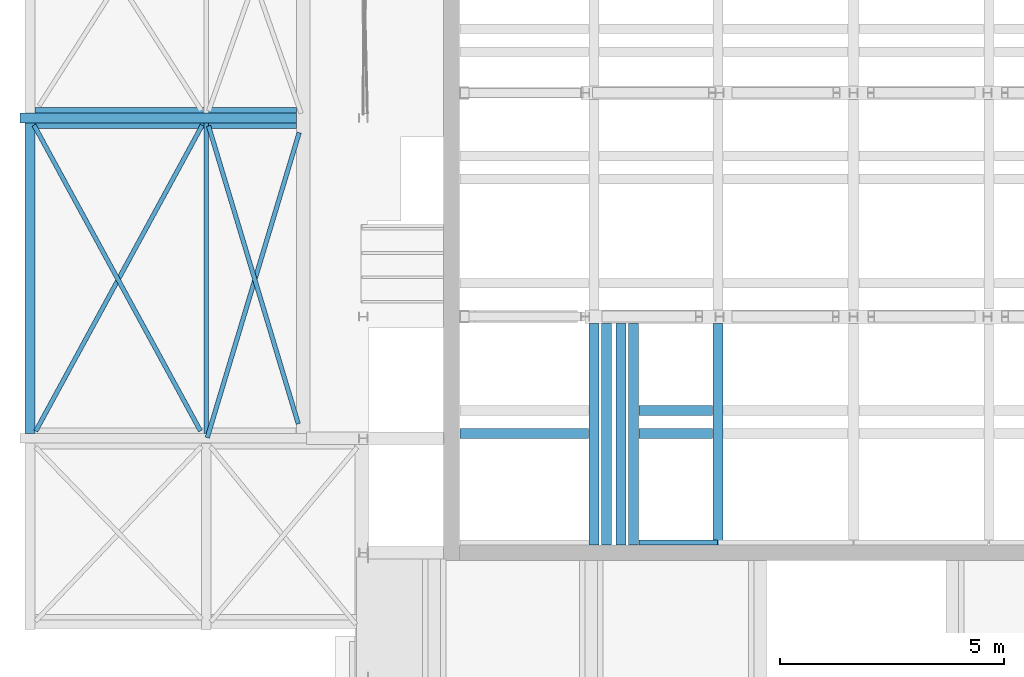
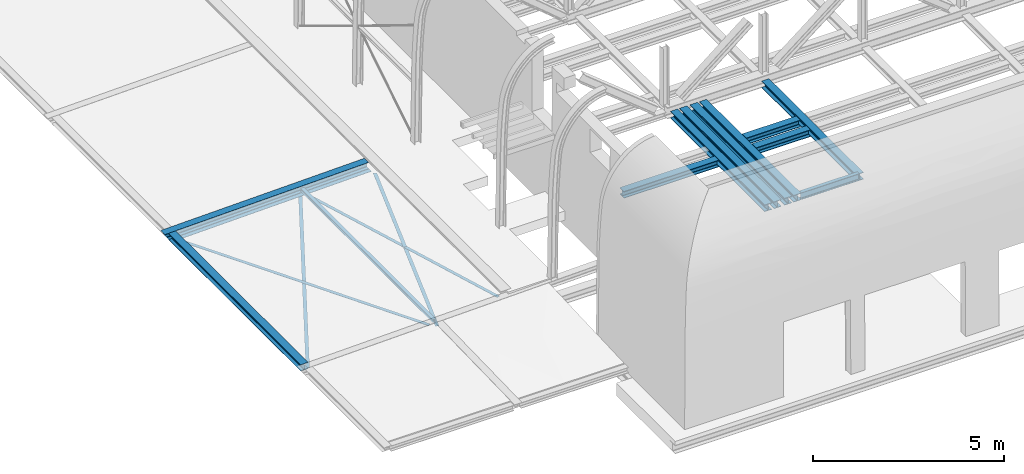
# One storey, part 8 of 29: 16 beams.
"""IFC2X3 building model written with IfcOpenShell, lengths in millimetres."""

from ifc_helpers import new_model, entity, si_unit, converted_unit, derived_unit, direction, frame, frame_2d, origin, place, context, subcontext, project, spatial, polyline, circle_curve, parameter, trimmed, segment, composite_curve, rectangle, i_section, outline, extrude, clip, halfspace, source, transform, mapped, material, material_list, type_object, type_shapes, element, save


model = new_model("IFC2X3")

# Units and contexts
model_context = context("Model", 3, precision=0.01, world=origin(), true_north=direction((6.12303176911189e-17, 1.0)))
body_context = subcontext(model_context, "Body", "Model", "MODEL_VIEW")
ifc_project = project(units=[si_unit("LENGTHUNIT", "METRE", prefix="MILLI"), si_unit("AREAUNIT", "SQUARE_METRE", prefix="MILLI"), si_unit("VOLUMEUNIT", "CUBIC_METRE"), converted_unit("PLANEANGLEUNIT", "DEGREE", entity("IfcRatioMeasure", 0.0174532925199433), si_unit("PLANEANGLEUNIT", "RADIAN"), dimensions=[0, 0, 0, 0, 0, 0, 0]), si_unit("MASSUNIT", "GRAM", prefix="KILO"), derived_unit("MASSDENSITYUNIT", [(si_unit("MASSUNIT", "GRAM", prefix="KILO"), 1), (si_unit("LENGTHUNIT", "METRE"), -3)]), derived_unit("MOMENTOFINERTIAUNIT", [(si_unit("LENGTHUNIT", "METRE"), 4)]), si_unit("TIMEUNIT", "SECOND"), si_unit("FREQUENCYUNIT", "HERTZ"), si_unit("THERMODYNAMICTEMPERATUREUNIT", "DEGREE_CELSIUS"), derived_unit("THERMALTRANSMITTANCEUNIT", [(si_unit("MASSUNIT", "GRAM", prefix="KILO"), 1), (si_unit("THERMODYNAMICTEMPERATUREUNIT", "KELVIN"), -1), (si_unit("TIMEUNIT", "SECOND"), -3)]), derived_unit("VOLUMETRICFLOWRATEUNIT", [(si_unit("LENGTHUNIT", "METRE"), 3), (si_unit("TIMEUNIT", "SECOND"), -1)]), si_unit("ELECTRICCURRENTUNIT", "AMPERE"), si_unit("ELECTRICVOLTAGEUNIT", "VOLT"), si_unit("POWERUNIT", "WATT"), si_unit("FORCEUNIT", "NEWTON", prefix="KILO"), si_unit("ILLUMINANCEUNIT", "LUX"), si_unit("LUMINOUSFLUXUNIT", "LUMEN"), si_unit("LUMINOUSINTENSITYUNIT", "CANDELA"), derived_unit("USERDEFINED", [(si_unit("MASSUNIT", "GRAM", prefix="KILO"), -1), (si_unit("LENGTHUNIT", "METRE"), -2), (si_unit("TIMEUNIT", "SECOND"), 3), (si_unit("LUMINOUSFLUXUNIT", "LUMEN"), 1)]), derived_unit("LINEARVELOCITYUNIT", [(si_unit("LENGTHUNIT", "METRE"), 1), (si_unit("TIMEUNIT", "SECOND"), -1)]), si_unit("PRESSUREUNIT", "PASCAL"), derived_unit("USERDEFINED", [(si_unit("LENGTHUNIT", "METRE"), -2), (si_unit("MASSUNIT", "GRAM", prefix="KILO"), 1), (si_unit("TIMEUNIT", "SECOND"), -2)]), derived_unit("LINEARFORCEUNIT", [(si_unit("MASSUNIT", "GRAM", prefix="KILO"), 1), (si_unit("LENGTHUNIT", "METRE"), 1), (si_unit("TIMEUNIT", "SECOND"), -2), (si_unit("LENGTHUNIT", "METRE"), -1)]), derived_unit("PLANARFORCEUNIT", [(si_unit("MASSUNIT", "GRAM", prefix="KILO"), 1), (si_unit("LENGTHUNIT", "METRE"), 1), (si_unit("TIMEUNIT", "SECOND"), -2), (si_unit("LENGTHUNIT", "METRE"), -2)])], contexts=[model_context])

# Site, building, storey
site_placement = place(None, origin())
site = spatial("IfcSite", under=ifc_project, at=site_placement, Name="Theater aan de Parade", CompositionType="ELEMENT")
building_placement = place(site_placement, origin())
building = spatial("IfcBuilding", under=site, at=building_placement, Name="Theater aan de Parade", CompositionType="ELEMENT")
storey_placement = place(building_placement, frame((0.0, 0.0, 20300.0)))
storey = spatial("IfcBuildingStorey", under=building, at=storey_placement, Name="05 vijfde verdieping", CompositionType="ELEMENT", Elevation=20300.0)

# Beams
ifc_material_1 = material(Name="00_PBT_MAT_staal_S355")
beam_type_1 = type_object("IfcBeamType", Name="28_PBT_SF_staal_H-profiel:S355_HE220B", PredefinedType="NOTDEFINED")
beam_1_placement = place(storey_placement, frame((73483.3589914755, 19810.0002435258, 0.0), z_axis=(0.0, 0.0, 1.0), x_axis=(0.0, 1.0, 0.0)))
element("IfcBeam", 1, at=beam_1_placement, inside=storey, type_object=beam_type_1, material=ifc_material_1, Name="28_PBT_SF_staal_H-profiel:S355_HE220B", ObjectType="28_PBT_SF_staal_H-profiel:S355_HE220B", context=body_context, shape_type="SweptSolid", body=[
    extrude(outline(composite_curve([segment(polyline([(94.0, -110.0), (110.0, -110.0)]), True, "CONTINUOUS"), segment(polyline([(110.0, -110.0), (110.0, 110.0)]), True, "CONTINUOUS"), segment(polyline([(110.0, 110.0), (94.0, 110.0)]), True, "CONTINUOUS"), segment(polyline([(94.0, 110.0), (94.0, 22.7499999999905)]), True, "CONTINUOUS"), segment(trimmed(circle_curve(frame_2d((76.0, 22.7499999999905), x_axis=(1.0, 0.0)), 17.9999999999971), [parameter(269.999999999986)], [parameter(0.0)], True, "PARAMETER"), False, "CONTINUOUS"), segment(polyline([(76.0, 4.74999999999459), (-76.0, 4.74999999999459)]), True, "CONTINUOUS"), segment(trimmed(circle_curve(frame_2d((-76.0, 22.7499999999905), x_axis=(0.0, -1.0)), 17.9999999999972), [parameter(269.999999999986)], [parameter(0.0)], True, "PARAMETER"), False, "CONTINUOUS"), segment(polyline([(-94.0, 22.7499999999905), (-94.0, 110.0)]), True, "CONTINUOUS"), segment(polyline([(-94.0, 110.0), (-110.0, 110.0)]), True, "CONTINUOUS"), segment(polyline([(-110.0, 110.0), (-110.0, -110.0)]), True, "CONTINUOUS"), segment(polyline([(-110.0, -110.0), (-94.0, -110.0)]), True, "CONTINUOUS"), segment(polyline([(-94.0, -110.0), (-94.0, -22.7500000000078)]), True, "CONTINUOUS"), segment(trimmed(circle_curve(frame_2d((-76.0, -22.7500000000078), x_axis=(-1.0, 0.0)), 17.9999999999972), [parameter(269.999999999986)], [parameter(0.0)], True, "PARAMETER"), False, "CONTINUOUS"), segment(polyline([(-76.0, -4.75000000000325), (76.0, -4.75000000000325)]), True, "CONTINUOUS"), segment(trimmed(circle_curve(frame_2d((76.0, -22.7500000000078), x_axis=(0.0, 1.0)), 17.9999999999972), [parameter(269.999999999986)], [parameter(0.0)], True, "PARAMETER"), False, "CONTINUOUS"), segment(polyline([(94.0, -22.7500000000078), (94.0, -110.0)]), True, "CONTINUOUS")], self_intersect=False)), frame((0.0, 0.0, 2360.0), z_axis=(1.0, 0.0, 0.0), x_axis=(0.0, 0.0, -1.0)), (0.0, 0.0, 1.0), 4949.99975647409),
])
beam_2_placement = place(storey_placement, frame((70715.0, 19810.0002435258, 0.0), z_axis=(0.0, 0.0, 1.0), x_axis=(0.0, 1.0, 0.0)))
element("IfcBeam", 2, at=beam_2_placement, inside=storey, type_object=beam_type_1, material=ifc_material_1, Name="28_PBT_SF_staal_H-profiel:S355_HE220B", ObjectType="28_PBT_SF_staal_H-profiel:S355_HE220B", context=body_context, shape_type="SweptSolid", body=[
    extrude(outline(composite_curve([segment(polyline([(94.0, -110.0), (110.0, -110.0)]), True, "CONTINUOUS"), segment(polyline([(110.0, -110.0), (110.0, 110.0)]), True, "CONTINUOUS"), segment(polyline([(110.0, 110.0), (94.0, 110.0)]), True, "CONTINUOUS"), segment(polyline([(94.0, 110.0), (94.0, 22.7499999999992)]), True, "CONTINUOUS"), segment(trimmed(circle_curve(frame_2d((76.0, 22.7499999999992), x_axis=(1.0, 0.0)), 17.9999999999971), [parameter(269.999999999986)], [parameter(0.0)], True, "PARAMETER"), False, "CONTINUOUS"), segment(polyline([(76.0, 4.75000000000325), (-76.0, 4.75000000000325)]), True, "CONTINUOUS"), segment(trimmed(circle_curve(frame_2d((-76.0, 22.7499999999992), x_axis=(0.0, -1.0)), 17.9999999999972), [parameter(269.999999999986)], [parameter(0.0)], True, "PARAMETER"), False, "CONTINUOUS"), segment(polyline([(-94.0, 22.7499999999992), (-94.0, 110.0)]), True, "CONTINUOUS"), segment(polyline([(-94.0, 110.0), (-110.0, 110.0)]), True, "CONTINUOUS"), segment(polyline([(-110.0, 110.0), (-110.0, -110.0)]), True, "CONTINUOUS"), segment(polyline([(-110.0, -110.0), (-94.0, -110.0)]), True, "CONTINUOUS"), segment(polyline([(-94.0, -110.0), (-94.0, -22.7499999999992)]), True, "CONTINUOUS"), segment(trimmed(circle_curve(frame_2d((-76.0, -22.7499999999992), x_axis=(-1.0, 0.0)), 17.9999999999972), [parameter(269.999999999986)], [parameter(0.0)], True, "PARAMETER"), False, "CONTINUOUS"), segment(polyline([(-76.0, -4.74999999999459), (76.0, -4.74999999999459)]), True, "CONTINUOUS"), segment(trimmed(circle_curve(frame_2d((76.0, -22.7499999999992), x_axis=(0.0, 1.0)), 17.9999999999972), [parameter(269.999999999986)], [parameter(0.0)], True, "PARAMETER"), False, "CONTINUOUS"), segment(polyline([(94.0, -22.7499999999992), (94.0, -110.0)]), True, "CONTINUOUS")], self_intersect=False)), frame((0.0, 0.0, 2360.0), z_axis=(1.0, 0.0, 0.0), x_axis=(0.0, 0.0, -1.0)), (0.0, 0.0, 1.0), 4949.99975647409),
])
beam_3_placement = place(storey_placement, frame((73483.3589914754, 22811.5, 0.0), z_axis=(0.0, 0.0, 1.0), x_axis=(-1.0, 0.0, 0.0)))
element("IfcBeam", 3, at=beam_3_placement, inside=storey, type_object=beam_type_1, material=ifc_material_1, Name="28_PBT_SF_staal_H-profiel:S355_HE220B", ObjectType="28_PBT_SF_staal_H-profiel:S355_HE220B", context=body_context, shape_type="SweptSolid", body=[
    extrude(outline(composite_curve([segment(polyline([(94.0, -110.0), (110.0, -110.0)]), True, "CONTINUOUS"), segment(polyline([(110.0, -110.0), (110.0, 110.0)]), True, "CONTINUOUS"), segment(polyline([(110.0, 110.0), (94.0, 110.0)]), True, "CONTINUOUS"), segment(polyline([(94.0, 110.0), (94.0, 22.7500000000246)]), True, "CONTINUOUS"), segment(trimmed(circle_curve(frame_2d((76.0, 22.7500000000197), x_axis=(1.0, 0.0)), 18.0000000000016), [parameter(270.0)], [parameter(0.0)], True, "PARAMETER"), False, "CONTINUOUS"), segment(polyline([(76.0, 4.75000000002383), (-76.0, 4.74999999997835)]), True, "CONTINUOUS"), segment(trimmed(circle_curve(frame_2d((-76.0, 22.7499999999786), x_axis=(0.0, -1.0)), 18.0000000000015), [parameter(270.0)], [parameter(0.0)], True, "PARAMETER"), False, "CONTINUOUS"), segment(polyline([(-94.0, 22.749999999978), (-94.0, 110.0)]), True, "CONTINUOUS"), segment(polyline([(-94.0, 110.0), (-110.0, 110.0)]), True, "CONTINUOUS"), segment(polyline([(-110.0, 110.0), (-110.0, -110.0)]), True, "CONTINUOUS"), segment(polyline([(-110.0, -110.0), (-94.0, -110.0)]), True, "CONTINUOUS"), segment(polyline([(-94.0, -110.0), (-94.0, -22.7500000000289)]), True, "CONTINUOUS"), segment(trimmed(circle_curve(frame_2d((-76.0, -22.7500000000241), x_axis=(-1.0, 0.0)), 17.9999999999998), [parameter(270.0)], [parameter(0.0)], True, "PARAMETER"), False, "CONTINUOUS"), segment(polyline([(-76.0, -4.75000000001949), (76.0, -4.74999999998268)]), True, "CONTINUOUS"), segment(trimmed(circle_curve(frame_2d((76.0, -22.7499999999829), x_axis=(0.0, 1.0)), 18.0000000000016), [parameter(270.0)], [parameter(0.0)], True, "PARAMETER"), False, "CONTINUOUS"), segment(polyline([(94.0, -22.7499999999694), (94.0, -110.0)]), True, "CONTINUOUS")], self_intersect=False)), frame((122.700000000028, 0.0, 2360.0), z_axis=(1.0, 0.0, 0.0), x_axis=(0.0, 0.0, -1.0)), (0.0, 0.0, 1.0), 1642.95899086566),
])
beam_4_placement = place(storey_placement, frame((70715.0, 22297.4998, 0.0), z_axis=(0.0, 0.0, 1.0), x_axis=(-1.0, 0.0, 0.0)))
element("IfcBeam", 4, at=beam_4_placement, inside=storey, type_object=beam_type_1, material=ifc_material_1, Name="28_PBT_SF_staal_H-profiel:S355_HE220B", ObjectType="28_PBT_SF_staal_H-profiel:S355_HE220B", context=body_context, shape_type="SweptSolid", body=[
    extrude(outline(composite_curve([segment(polyline([(94.0, -110.0), (110.0, -110.0)]), True, "CONTINUOUS"), segment(polyline([(110.0, -110.0), (110.0, 110.0)]), True, "CONTINUOUS"), segment(polyline([(110.0, 110.0), (94.0, 110.0)]), True, "CONTINUOUS"), segment(polyline([(94.0, 110.0), (94.0, 22.7500000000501)]), True, "CONTINUOUS"), segment(trimmed(circle_curve(frame_2d((76.0, 22.7500000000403), x_axis=(1.0, 0.0)), 18.0000000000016), [parameter(270.0)], [parameter(0.0)], True, "PARAMETER"), False, "CONTINUOUS"), segment(polyline([(76.0, 4.75000000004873), (-76.0, 4.74999999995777)]), True, "CONTINUOUS"), segment(trimmed(circle_curve(frame_2d((-76.0, 22.749999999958), x_axis=(0.0, -1.0)), 18.0000000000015), [parameter(270.0)], [parameter(0.0)], True, "PARAMETER"), False, "CONTINUOUS"), segment(polyline([(-94.0, 22.7499999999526), (-94.0, 110.0)]), True, "CONTINUOUS"), segment(polyline([(-94.0, 110.0), (-110.0, 110.0)]), True, "CONTINUOUS"), segment(polyline([(-110.0, 110.0), (-110.0, -110.0)]), True, "CONTINUOUS"), segment(polyline([(-110.0, -110.0), (-94.0, -110.0)]), True, "CONTINUOUS"), segment(polyline([(-94.0, -110.0), (-94.0, -22.7500000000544)]), True, "CONTINUOUS"), segment(trimmed(circle_curve(frame_2d((-76.0, -22.7500000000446), x_axis=(-1.0, 0.0)), 17.9999999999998), [parameter(270.0)], [parameter(0.0)], True, "PARAMETER"), False, "CONTINUOUS"), segment(polyline([(-76.0, -4.75000000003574), (76.0, -4.7499999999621)]), True, "CONTINUOUS"), segment(trimmed(circle_curve(frame_2d((76.0, -22.7499999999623), x_axis=(0.0, 1.0)), 18.0000000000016), [parameter(270.0)], [parameter(0.0)], True, "PARAMETER"), False, "CONTINUOUS"), segment(polyline([(94.0, -22.7499999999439), (94.0, -110.0)]), True, "CONTINUOUS")], self_intersect=False)), frame((122.699999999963, 0.0, 2360.0), z_axis=(1.0, 0.0, 0.0), x_axis=(0.0, 0.0, -1.0)), (0.0, 0.0, 1.0), 2873.34389903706),
])
beam_5_placement = place(storey_placement, frame((73483.3589914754, 22297.4998, 0.0), z_axis=(0.0, 0.0, 1.0), x_axis=(-1.0, 0.0, 0.0)))
element("IfcBeam", 5, at=beam_5_placement, inside=storey, type_object=beam_type_1, material=ifc_material_1, Name="28_PBT_SF_staal_H-profiel:S355_HE220B", ObjectType="28_PBT_SF_staal_H-profiel:S355_HE220B", context=body_context, shape_type="SweptSolid", body=[
    extrude(outline(composite_curve([segment(polyline([(94.0, -110.0), (110.0, -110.0)]), True, "CONTINUOUS"), segment(polyline([(110.0, -110.0), (110.0, 110.0)]), True, "CONTINUOUS"), segment(polyline([(110.0, 110.0), (94.0, 110.0)]), True, "CONTINUOUS"), segment(polyline([(94.0, 110.0), (94.0, 22.7500000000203)]), True, "CONTINUOUS"), segment(trimmed(circle_curve(frame_2d((76.0, 22.7500000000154), x_axis=(1.0, 0.0)), 18.0000000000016), [parameter(270.0)], [parameter(0.0)], True, "PARAMETER"), False, "CONTINUOUS"), segment(polyline([(76.0, 4.75000000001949), (-76.0, 4.74999999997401)]), True, "CONTINUOUS"), segment(trimmed(circle_curve(frame_2d((-76.0, 22.7499999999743), x_axis=(0.0, -1.0)), 18.0000000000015), [parameter(270.0)], [parameter(0.0)], True, "PARAMETER"), False, "CONTINUOUS"), segment(polyline([(-94.0, 22.7499999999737), (-94.0, 110.0)]), True, "CONTINUOUS"), segment(polyline([(-94.0, 110.0), (-110.0, 110.0)]), True, "CONTINUOUS"), segment(polyline([(-110.0, 110.0), (-110.0, -110.0)]), True, "CONTINUOUS"), segment(polyline([(-110.0, -110.0), (-94.0, -110.0)]), True, "CONTINUOUS"), segment(polyline([(-94.0, -110.0), (-94.0, -22.7500000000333)]), True, "CONTINUOUS"), segment(trimmed(circle_curve(frame_2d((-76.0, -22.7500000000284), x_axis=(-1.0, 0.0)), 17.9999999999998), [parameter(270.0)], [parameter(0.0)], True, "PARAMETER"), False, "CONTINUOUS"), segment(polyline([(-76.0, -4.75000000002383), (76.0, -4.74999999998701)]), True, "CONTINUOUS"), segment(trimmed(circle_curve(frame_2d((76.0, -22.7499999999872), x_axis=(0.0, 1.0)), 18.0000000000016), [parameter(270.0)], [parameter(0.0)], True, "PARAMETER"), False, "CONTINUOUS"), segment(polyline([(94.0, -22.7499999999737), (94.0, -110.0)]), True, "CONTINUOUS")], self_intersect=False)), frame((122.700000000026, 0.0, 2360.0), z_axis=(1.0, 0.0, 0.0), x_axis=(0.0, 0.0, -1.0)), (0.0, 0.0, 1.0), 1642.95899086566),
])
beam_6_placement = place(storey_placement, frame((70995.0, 19810.0002435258, 0.0), z_axis=(0.0, 0.0, 1.0), x_axis=(0.0, 1.0, 0.0)))
element("IfcBeam", 6, at=beam_6_placement, inside=storey, type_object=beam_type_1, material=ifc_material_1, Name="28_PBT_SF_staal_H-profiel:S355_HE220B", ObjectType="28_PBT_SF_staal_H-profiel:S355_HE220B", context=body_context, shape_type="SweptSolid", body=[
    extrude(outline(composite_curve([segment(polyline([(94.0, -110.0), (110.0, -110.0)]), True, "CONTINUOUS"), segment(polyline([(110.0, -110.0), (110.0, 110.0)]), True, "CONTINUOUS"), segment(polyline([(110.0, 110.0), (94.0, 110.0)]), True, "CONTINUOUS"), segment(polyline([(94.0, 110.0), (94.0, 22.7499999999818)]), True, "CONTINUOUS"), segment(trimmed(circle_curve(frame_2d((76.0, 22.7499999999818), x_axis=(1.0, 0.0)), 17.9999999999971), [parameter(269.999999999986)], [parameter(0.0)], True, "PARAMETER"), False, "CONTINUOUS"), segment(polyline([(76.0, 4.74999999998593), (-76.0, 4.74999999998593)]), True, "CONTINUOUS"), segment(trimmed(circle_curve(frame_2d((-76.0, 22.7499999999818), x_axis=(0.0, -1.0)), 17.9999999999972), [parameter(269.999999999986)], [parameter(0.0)], True, "PARAMETER"), False, "CONTINUOUS"), segment(polyline([(-94.0, 22.7499999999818), (-94.0, 110.0)]), True, "CONTINUOUS"), segment(polyline([(-94.0, 110.0), (-110.0, 110.0)]), True, "CONTINUOUS"), segment(polyline([(-110.0, 110.0), (-110.0, -110.0)]), True, "CONTINUOUS"), segment(polyline([(-110.0, -110.0), (-94.0, -110.0)]), True, "CONTINUOUS"), segment(polyline([(-94.0, -110.0), (-94.0, -22.7500000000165)]), True, "CONTINUOUS"), segment(trimmed(circle_curve(frame_2d((-76.0, -22.7500000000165), x_axis=(-1.0, 0.0)), 17.9999999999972), [parameter(269.999999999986)], [parameter(0.0)], True, "PARAMETER"), False, "CONTINUOUS"), segment(polyline([(-76.0, -4.75000000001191), (76.0, -4.75000000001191)]), True, "CONTINUOUS"), segment(trimmed(circle_curve(frame_2d((76.0, -22.7500000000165), x_axis=(0.0, 1.0)), 17.9999999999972), [parameter(269.999999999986)], [parameter(0.0)], True, "PARAMETER"), False, "CONTINUOUS"), segment(polyline([(94.0, -22.7500000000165), (94.0, -110.0)]), True, "CONTINUOUS")], self_intersect=False)), frame((0.0, 0.0, 2360.0), z_axis=(1.0, 0.0, 0.0), x_axis=(0.0, 0.0, -1.0)), (0.0, 0.0, 1.0), 4949.99975647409),
])
beam_7_placement = place(storey_placement, frame((71315.0, 19810.0002435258, 0.0), z_axis=(0.0, 0.0, 1.0), x_axis=(0.0, 1.0, 0.0)))
element("IfcBeam", 7, at=beam_7_placement, inside=storey, type_object=beam_type_1, material=ifc_material_1, Name="28_PBT_SF_staal_H-profiel:S355_HE220B", ObjectType="28_PBT_SF_staal_H-profiel:S355_HE220B", context=body_context, shape_type="SweptSolid", body=[
    extrude(outline(composite_curve([segment(polyline([(94.0, -110.0), (110.0, -110.0)]), True, "CONTINUOUS"), segment(polyline([(110.0, -110.0), (110.0, 110.0)]), True, "CONTINUOUS"), segment(polyline([(110.0, 110.0), (94.0, 110.0)]), True, "CONTINUOUS"), segment(polyline([(94.0, 110.0), (94.0, 22.7499999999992)]), True, "CONTINUOUS"), segment(trimmed(circle_curve(frame_2d((76.0, 22.7499999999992), x_axis=(1.0, 0.0)), 17.9999999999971), [parameter(269.999999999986)], [parameter(0.0)], True, "PARAMETER"), False, "CONTINUOUS"), segment(polyline([(76.0, 4.75000000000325), (-76.0, 4.75000000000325)]), True, "CONTINUOUS"), segment(trimmed(circle_curve(frame_2d((-76.0, 22.7499999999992), x_axis=(0.0, -1.0)), 17.9999999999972), [parameter(269.999999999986)], [parameter(0.0)], True, "PARAMETER"), False, "CONTINUOUS"), segment(polyline([(-94.0, 22.7499999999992), (-94.0, 110.0)]), True, "CONTINUOUS"), segment(polyline([(-94.0, 110.0), (-110.0, 110.0)]), True, "CONTINUOUS"), segment(polyline([(-110.0, 110.0), (-110.0, -110.0)]), True, "CONTINUOUS"), segment(polyline([(-110.0, -110.0), (-94.0, -110.0)]), True, "CONTINUOUS"), segment(polyline([(-94.0, -110.0), (-94.0, -22.7499999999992)]), True, "CONTINUOUS"), segment(trimmed(circle_curve(frame_2d((-76.0, -22.7499999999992), x_axis=(-1.0, 0.0)), 17.9999999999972), [parameter(269.999999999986)], [parameter(0.0)], True, "PARAMETER"), False, "CONTINUOUS"), segment(polyline([(-76.0, -4.74999999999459), (76.0, -4.74999999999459)]), True, "CONTINUOUS"), segment(trimmed(circle_curve(frame_2d((76.0, -22.7499999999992), x_axis=(0.0, 1.0)), 17.9999999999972), [parameter(269.999999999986)], [parameter(0.0)], True, "PARAMETER"), False, "CONTINUOUS"), segment(polyline([(94.0, -22.7499999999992), (94.0, -110.0)]), True, "CONTINUOUS")], self_intersect=False)), frame((0.0, 0.0, 2360.0), z_axis=(1.0, 0.0, 0.0), x_axis=(0.0, 0.0, -1.0)), (0.0, 0.0, 1.0), 4949.99975647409),
])
beam_8_placement = place(storey_placement, frame((71595.0, 19810.0002435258, 0.0), z_axis=(0.0, 0.0, 1.0), x_axis=(0.0, 1.0, 0.0)))
element("IfcBeam", 8, at=beam_8_placement, inside=storey, type_object=beam_type_1, material=ifc_material_1, Name="28_PBT_SF_staal_H-profiel:S355_HE220B", ObjectType="28_PBT_SF_staal_H-profiel:S355_HE220B", context=body_context, shape_type="SweptSolid", body=[
    extrude(outline(composite_curve([segment(polyline([(94.0, -110.0), (110.0, -110.0)]), True, "CONTINUOUS"), segment(polyline([(110.0, -110.0), (110.0, 110.0)]), True, "CONTINUOUS"), segment(polyline([(110.0, 110.0), (94.0, 110.0)]), True, "CONTINUOUS"), segment(polyline([(94.0, 110.0), (94.0, 22.7499999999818)]), True, "CONTINUOUS"), segment(trimmed(circle_curve(frame_2d((76.0, 22.7499999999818), x_axis=(1.0, 0.0)), 17.9999999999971), [parameter(269.999999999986)], [parameter(0.0)], True, "PARAMETER"), False, "CONTINUOUS"), segment(polyline([(76.0, 4.74999999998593), (-76.0, 4.74999999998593)]), True, "CONTINUOUS"), segment(trimmed(circle_curve(frame_2d((-76.0, 22.7499999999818), x_axis=(0.0, -1.0)), 17.9999999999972), [parameter(269.999999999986)], [parameter(0.0)], True, "PARAMETER"), False, "CONTINUOUS"), segment(polyline([(-94.0, 22.7499999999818), (-94.0, 110.0)]), True, "CONTINUOUS"), segment(polyline([(-94.0, 110.0), (-110.0, 110.0)]), True, "CONTINUOUS"), segment(polyline([(-110.0, 110.0), (-110.0, -110.0)]), True, "CONTINUOUS"), segment(polyline([(-110.0, -110.0), (-94.0, -110.0)]), True, "CONTINUOUS"), segment(polyline([(-94.0, -110.0), (-94.0, -22.7500000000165)]), True, "CONTINUOUS"), segment(trimmed(circle_curve(frame_2d((-76.0, -22.7500000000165), x_axis=(-1.0, 0.0)), 17.9999999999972), [parameter(269.999999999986)], [parameter(0.0)], True, "PARAMETER"), False, "CONTINUOUS"), segment(polyline([(-76.0, -4.75000000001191), (76.0, -4.75000000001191)]), True, "CONTINUOUS"), segment(trimmed(circle_curve(frame_2d((76.0, -22.7500000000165), x_axis=(0.0, 1.0)), 17.9999999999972), [parameter(269.999999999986)], [parameter(0.0)], True, "PARAMETER"), False, "CONTINUOUS"), segment(polyline([(94.0, -22.7500000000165), (94.0, -110.0)]), True, "CONTINUOUS")], self_intersect=False)), frame((0.0, 0.0, 2360.0), z_axis=(1.0, 0.0, 0.0), x_axis=(0.0, 0.0, -1.0)), (0.0, 0.0, 1.0), 4949.99975647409),
])
beam_type_2 = type_object("IfcBeamType", Name="28_PBT_SF_staal_H-profiel:S355_HE220A", PredefinedType="NOTDEFINED")
beam_9_placement = place(storey_placement, frame((58114.89761, 22300.0, 53.3503559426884), z_axis=(0.0, 0.0, 1.0), x_axis=(0.0, 1.0, 0.0)))
element("IfcBeam", 9, at=beam_9_placement, inside=storey, type_object=beam_type_2, material=ifc_material_1, Name="28_PBT_SF_staal_H-profiel:S355_HE220A", ObjectType="28_PBT_SF_staal_H-profiel:S355_HE220A", context=body_context, shape_type="SweptSolid", body=[
    extrude(i_section(OverallWidth=219.999999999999, OverallDepth=210.0, WebThickness=6.99999999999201, FlangeThickness=10.9999999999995, FilletRadius=18.0000000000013, at=frame_2d((-1.28821397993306e-11, -4.65405491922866e-12), x_axis=(1.0, 0.0))), frame((0.0, 2.59326393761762, 104.967971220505), z_axis=(1.0, 0.0, 0.0), x_axis=(0.0, -0.999694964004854, 0.0246977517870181)), (0.0, 0.0, 1.0), 6936.91654968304),
])
ifc_material_2 = material(Name="00_PBT_MAT_staal")
beam_type_3 = type_object("IfcBeamType", Name="28_PBT_SF_staal_strip:strip 100x10", PredefinedType="NOTDEFINED")
beam_10_placement = place(storey_placement, frame((58152.8439964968, 22190.0, 54.2878323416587), z_axis=(-0.00564519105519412, -0.0103724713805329, 0.999930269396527), x_axis=(0.478001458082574, 0.878279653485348, 0.0118091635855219)))
element("IfcBeam", 10, at=beam_10_placement, inside=storey, type_object=beam_type_3, material=ifc_material_2, Name="28_PBT_SF_staal_strip:strip 100x10", ObjectType="28_PBT_SF_staal_strip:strip 100x10", context=body_context, shape_type="SweptSolid", body=[
    extrude(rectangle(XDim=9.9999999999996, YDim=99.9999999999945, at=frame_2d((0.0, 0.0), x_axis=(0.0, 1.0))), frame((181.695479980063, -0.325395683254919, -14.9964701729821), z_axis=(1.0, 0.0, 0.0), x_axis=(0.0, -0.999764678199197, 0.0216930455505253)), (0.0, 0.0, 1.0), 7781.0926759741),
])
beam_11_placement = place(storey_placement, frame((64224.8693387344, 22119.4165452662, 190.0), z_axis=(-0.00150847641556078, 0.00500829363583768, 0.999986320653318), x_axis=(-0.288394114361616, 0.957497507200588, -0.00523053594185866)))
element("IfcBeam", 11, at=beam_11_placement, inside=storey, type_object=beam_type_3, material=ifc_material_2, Name="28_PBT_SF_staal_strip:strip 100x10", ObjectType="28_PBT_SF_staal_strip:strip 100x10", context=body_context, shape_type="SweptSolid", body=[
    extrude(rectangle(XDim=9.99999999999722, YDim=99.9999999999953, at=frame_2d((2.22044604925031e-15, -8.91731133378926e-12), x_axis=(1.0, 0.0))), frame((410.870885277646, 0.0, -15.0), z_axis=(1.0, 0.0, 0.0), x_axis=(0.0, 0.0, -1.0)), (0.0, 0.0, 1.0), 6952.14960438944),
])
beam_12_placement = place(storey_placement, frame((58114.4291315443, 29346.916549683, 53.3387820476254), z_axis=(-0.00564519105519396, 0.0103724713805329, 0.999930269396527), x_axis=(0.478001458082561, -0.878279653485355, 0.0118091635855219)))
element("IfcBeam", 12, at=beam_12_placement, inside=storey, type_object=beam_type_3, material=ifc_material_2, Name="28_PBT_SF_staal_strip:strip 100x10", ObjectType="28_PBT_SF_staal_strip:strip 100x10", context=body_context, shape_type="SweptSolid", body=[
    extrude(rectangle(XDim=9.9999999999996, YDim=99.9999999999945, at=frame_2d((0.0, 0.0), x_axis=(0.0, 1.0))), frame((181.695479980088, 0.325395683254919, -14.9964701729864), z_axis=(1.0, 0.0, 0.0), x_axis=(0.0, -0.999764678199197, -0.0216930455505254)), (0.0, 0.0, 1.0), 7781.09267597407),
])
beam_13_placement = place(storey_placement, frame((64216.4952926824, 29319.1138733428, 190.0), z_axis=(-0.00151430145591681, -0.00502763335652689, 0.999986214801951), x_axis=(-0.288394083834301, -0.957497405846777, -0.00525073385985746)))
element("IfcBeam", 13, at=beam_13_placement, inside=storey, type_object=beam_type_3, material=ifc_material_2, Name="28_PBT_SF_staal_strip:strip 100x10", ObjectType="28_PBT_SF_staal_strip:strip 100x10", context=body_context, shape_type="SweptSolid", body=[
    extrude(rectangle(XDim=9.99999999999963, YDim=99.999999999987, at=frame_2d((-6.50102194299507e-12, 4.77129447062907e-12), x_axis=(1.0, 0.0))), frame((311.798051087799, 0.0, -15.0), z_axis=(1.0, 0.0, 0.0), x_axis=(0.0, 0.0, -1.0)), (0.0, 0.0, 1.0), 7119.87704356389),
])
beam_type_4 = type_object("IfcBeamType", Name="28_PBT_SF_staal_IPE-profiel:S355_IPE220", PredefinedType="NOTDEFINED")
beam_14_placement = place(storey_placement, frame((73483.3589914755, 19865.0002435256, 0.0), z_axis=(0.0, 0.0, 1.0), x_axis=(-1.0, 0.0, 0.0)))
element("IfcBeam", 14, at=beam_14_placement, inside=storey, type_object=beam_type_4, material=ifc_material_1, Name="28_PBT_SF_staal_IPE-profiel:S355_IPE220", ObjectType="28_PBT_SF_staal_IPE-profiel:S355_IPE220", context=body_context, shape_type="SweptSolid", body=[
    extrude(outline(composite_curve([segment(polyline([(100.800000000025, -55.0), (110.0, -55.0)]), True, "CONTINUOUS"), segment(polyline([(110.0, -55.0), (110.0, 55.0)]), True, "CONTINUOUS"), segment(polyline([(110.0, 55.0), (100.799999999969, 55.0)]), True, "CONTINUOUS"), segment(polyline([(100.799999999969, 55.0), (100.799999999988, 14.9500000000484)]), True, "CONTINUOUS"), segment(trimmed(circle_curve(frame_2d((88.7999999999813, 14.9500000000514), x_axis=(1.0, 0.0)), 12.0000000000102), [parameter(270.000000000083)], [parameter(0.0)], True, "PARAMETER"), False, "CONTINUOUS"), segment(polyline([(88.7999999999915, 2.9500000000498), (-88.800000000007, 2.94999999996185)]), True, "CONTINUOUS"), segment(trimmed(circle_curve(frame_2d((-88.800000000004, 14.9499999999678), x_axis=(0.0, -1.0)), 12.0000000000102), [parameter(270.000000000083)], [parameter(0.0)], True, "PARAMETER"), False, "CONTINUOUS"), segment(polyline([(-100.80000000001, 14.9499999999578), (-100.800000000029, 55.0)]), True, "CONTINUOUS"), segment(polyline([(-100.800000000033, 55.0), (-110.0, 55.0)]), True, "CONTINUOUS"), segment(polyline([(-110.0, 55.0), (-110.0, -55.0)]), True, "CONTINUOUS"), segment(polyline([(-110.0, -55.0), (-100.799999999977, -55.0)]), True, "CONTINUOUS"), segment(polyline([(-100.799999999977, -55.0), (-100.799999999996, -14.9500000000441)]), True, "CONTINUOUS"), segment(trimmed(circle_curve(frame_2d((-88.7999999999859, -14.9500000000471), x_axis=(-1.0, 0.0)), 12.0000000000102), [parameter(270.000000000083)], [parameter(0.0)], True, "PARAMETER"), False, "CONTINUOUS"), segment(polyline([(-88.8000000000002, -2.95000000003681), (88.7999999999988, -2.94999999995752)]), True, "CONTINUOUS"), segment(trimmed(circle_curve(frame_2d((88.7999999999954, -14.9499999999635), x_axis=(0.0, 1.0)), 12.0000000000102), [parameter(270.000000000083)], [parameter(0.0)], True, "PARAMETER"), False, "CONTINUOUS"), segment(polyline([(100.800000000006, -14.9499999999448), (100.800000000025, -55.0)]), True, "CONTINUOUS")], self_intersect=False)), frame((12.7000006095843, 0.0, 2360.0), z_axis=(1.0, 0.0, 0.0), x_axis=(0.0, 0.0, -1.0)), (0.0, 0.0, 1.0), 1752.95899086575),
])
beam_type_5 = type_object("IfcBeamType", Name="28_PBT_SF_staal_H-profiel:S355_HE100A", PredefinedType="NOTDEFINED")
beam_15_placement = place(storey_placement, frame((62051.1518609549, 22300.0, 150.596650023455), z_axis=(0.0, 0.0, 1.0), x_axis=(0.0, 1.0, 0.0)))
element("IfcBeam", 15, at=beam_15_placement, inside=storey, type_object=beam_type_5, material=ifc_material_1, Name="28_PBT_SF_staal_H-profiel:S355_HE100A", ObjectType="28_PBT_SF_staal_H-profiel:S355_HE100A", context=body_context, shape_type="SweptSolid", body=[
    extrude(i_section(OverallWidth=99.9999999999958, OverallDepth=96.0000000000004, WebThickness=4.99999999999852, FlangeThickness=7.99999999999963, FilletRadius=12.0000000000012, at=frame_2d((-4.9737991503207e-14, 2.1600499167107e-12), x_axis=(1.0, 0.0))), frame((0.0, 2.51917068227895, 101.968886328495), z_axis=(1.0, 0.0, 0.0), x_axis=(0.0, -0.999694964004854, 0.0246977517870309)), (0.0, 0.0, 1.0), 6936.91654968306),
])
ifc_material_3 = material(Name="00_PBT_MAT_Lucht")
ifc_material_list = material_list([ifc_material_1, ifc_material_3])
beam_type_6 = type_object("IfcBeamType", Name="28_PBT_SF_staal_H-profiel_met_onderplaat (void):S355_HE220A + onderplaat d=12", PredefinedType="BEAM", material=ifc_material_list)
shared_shape = source(origin(), body_context, "Body", "SweptSolid", [
    clip(extrude(i_section(OverallWidth=219.999999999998, OverallDepth=210.000000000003, WebThickness=7.00000000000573, FlangeThickness=10.9999999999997, FilletRadius=17.9999999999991, at=frame_2d((-2.16715534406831e-12, -4.33431068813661e-12), x_axis=(1.0, 0.0))), frame((57891.0585320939, 29346.916549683, 20452.852385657), z_axis=(0.99969496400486, 0.0, 0.0246977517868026), x_axis=(0.0, -1.0, 0.0)), (0.0, 0.0, 1.0), 6176.88167554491), halfspace(frame((57892.4632346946, 31357.7998275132, 20551.0890506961), z_axis=(-0.859784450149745, 0.0, -0.510657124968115), x_axis=(-0.510657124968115, 0.0, 0.859784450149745)), False)),
    extrude(rectangle(XDim=11.999999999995, YDim=470.000000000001, at=frame_2d((-2.17426077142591e-12, 1.07469588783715e-13), x_axis=(0.0, 1.0))), frame((58228.6471370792, 29346.916549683, 20350.1587399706), z_axis=(0.999694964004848, 0.0, 0.0246977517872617), x_axis=(0.0, -1.0, 0.0)), (0.0, 0.0, 1.0), 5841.93234940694),
])
type_shapes(beam_type_6, [shared_shape])
beam_16_placement = place(storey_placement, frame((0.0, 0.0, -20300.0)))
element("IfcBeam", 16, at=beam_16_placement, inside=storey, type_object=beam_type_6, material=ifc_material_1, Name="28_PBT_SF_staal_H-profiel_met_onderplaat (void):S355_HE220A + onderplaat d=12", ObjectType="28_PBT_SF_staal_H-profiel_met_onderplaat (void):S355_HE220A + onderplaat d=12", context=body_context, shape_type="MappedRepresentation", body=[
    mapped(shared_shape, transform((0.0, 0.0, 0.0), scale=1.0)),
])

save(model, "model.ifc")
